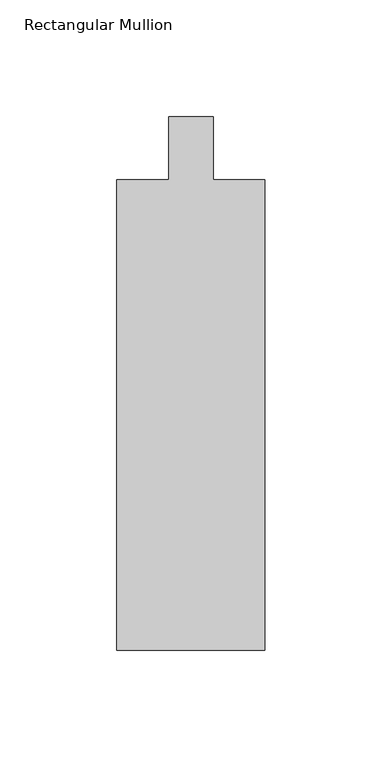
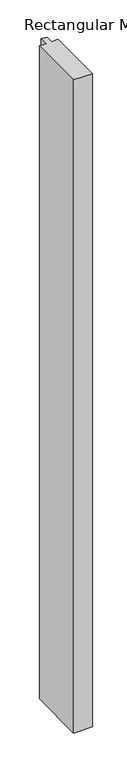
"""IFC4 building model written with IfcOpenShell, lengths in millimetres: member geometry."""

import ifcopenshell
import ifcopenshell.guid

model = None  # the IFC model being written
_history = None  # IfcOwnerHistory: only IFC2X3 demands one
_inside = {}  # id of a spatial element -> (the spatial element, [elements in it])
_under = {}  # id of a project, library or spatial element -> (it, [spatial elements below it])
_declared = {}  # id of a project -> (the project, [libraries it declares])
_typed = {}  # id of a type object -> (the type object, [elements of that type])
_made_of = {}  # id of a material, layer set ... -> (it, [elements and type objects made of it])


def new_model(schema):
    """Start an empty IFC model of exactly this schema.

    Asked for "IFC4X3", IfcOpenShell would pick the latest addendum, in which some entities
    have other attributes; the version numbers below select the first issue.
    IFC2X3 requires an IfcOwnerHistory on every rooted entity: one is made here for all.
    """
    global model, _history
    if schema == "IFC4X3":
        model = ifcopenshell.file(schema_version=(4, 3, 0, 0))
    else:
        model = ifcopenshell.file(schema=schema)
    _inside.clear()
    _under.clear()
    _declared.clear()
    _typed.clear()
    _made_of.clear()
    _history = None
    if model.schema == "IFC2X3":
        org = make("IfcOrganization", Name="unknown")
        user = make(
            "IfcPersonAndOrganization",
            ThePerson=make("IfcPerson", FamilyName="unknown"),
            TheOrganization=org,
        )
        app = make(
            "IfcApplication",
            ApplicationDeveloper=org,
            Version="unknown",
            ApplicationFullName="unknown",
            ApplicationIdentifier="unknown",
        )
        _history = make(
            "IfcOwnerHistory",
            OwningUser=user,
            OwningApplication=app,
            ChangeAction="ADDED",
            CreationDate=0,
        )
    return model


def make(cls, **values):
    """One entity of the class cls with the attributes given. An attribute that is None is left unset."""
    return model.create_entity(
        cls, **{name: value for name, value in values.items() if value is not None}
    )


def rooted(cls, **values):
    """An entity with a GlobalId (a new one), such as an element, a storey or a relation."""
    return make(cls, GlobalId=ifcopenshell.guid.new(), OwnerHistory=_history, **values)


def si_unit(unit_type, name, prefix=None):
    """IfcSIUnit, for example si_unit("LENGTHUNIT", "METRE", prefix="MILLI")."""
    return make("IfcSIUnit", UnitType=unit_type, Prefix=prefix, Name=name)


def assignment(units):
    """IfcUnitAssignment: the units of a project."""
    return None if units is None else make("IfcUnitAssignment", Units=units)


def point(xyz):
    """IfcCartesianPoint."""
    return None if xyz is None else make("IfcCartesianPoint", Coordinates=xyz)


def direction(xyz):
    """IfcDirection."""
    return None if xyz is None else make("IfcDirection", DirectionRatios=xyz)


def frame(location, z_axis=None, x_axis=None):
    """IfcAxis2Placement3D, a coordinate frame: its origin and axes. An axis left out is left unset."""
    return make(
        "IfcAxis2Placement3D",
        Location=point(location),
        Axis=direction(z_axis),
        RefDirection=direction(x_axis),
    )


def origin():
    """The frame at (0, 0, 0) with its axes left unset."""
    return frame((0.0, 0.0, 0.0))


def place(relative_to, where):
    """IfcLocalPlacement: puts the frame where relative to a parent placement (None: the world)."""
    return make(
        "IfcLocalPlacement", PlacementRelTo=relative_to, RelativePlacement=where
    )


def context(
    kind, dimensions, precision=None, world=None, true_north=None, identifier=None
):
    """IfcGeometricRepresentationContext, for example the 3D "Model" context."""
    return make(
        "IfcGeometricRepresentationContext",
        ContextIdentifier=identifier,
        ContextType=kind,
        CoordinateSpaceDimension=dimensions,
        Precision=precision,
        WorldCoordinateSystem=world,
        TrueNorth=true_north,
    )


def project(units=None, contexts=None):
    """IfcProject with its units and contexts."""
    return rooted(
        "IfcProject",
        Name="project",
        RepresentationContexts=contexts,
        UnitsInContext=assignment(units),
    )


def spatial(cls, under=None, at=None, **own):
    """A site, building, storey or space (cls), placed at a placement, below another one or the project."""
    s = rooted(cls, ObjectPlacement=at, **own)
    if under is not None:
        _under.setdefault(under.id(), (under, []))[1].append(s)
    return s


def polyline(points):
    """IfcPolyline through the points."""
    return make("IfcPolyline", Points=[point(p) for p in points])


def outline(outer, holes=None, kind="AREA"):
    """IfcArbitraryClosedProfileDef: a profile drawn as a closed curve; with holes, ...WithVoids."""
    if holes is None:
        return make("IfcArbitraryClosedProfileDef", ProfileType=kind, OuterCurve=outer)
    return make(
        "IfcArbitraryProfileDefWithVoids",
        ProfileType=kind,
        OuterCurve=outer,
        InnerCurves=holes,
    )


def extrude(swept, where, along, depth):
    """IfcExtrudedAreaSolid: the profile swept, set in the frame where, extruded along a direction by depth."""
    return make(
        "IfcExtrudedAreaSolid",
        SweptArea=swept,
        Position=where,
        ExtrudedDirection=direction(along),
        Depth=depth,
    )


def shape(context_of_items, identifier, shape_type, items):
    """IfcShapeRepresentation: the items that make up one representation, for example the "Body"."""
    return make(
        "IfcShapeRepresentation",
        ContextOfItems=context_of_items,
        RepresentationIdentifier=identifier,
        RepresentationType=shape_type,
        Items=items,
    )


def source(mapping_origin, context_of_items, identifier, shape_type, items):
    """IfcRepresentationMap: a shape defined once, which mapped items show again and again."""
    return make(
        "IfcRepresentationMap",
        MappingOrigin=mapping_origin,
        MappedRepresentation=shape(context_of_items, identifier, shape_type, items),
    )


def transform(
    local_origin,
    x_axis=None,
    y_axis=None,
    z_axis=None,
    scale=None,
    scale2=None,
    scale3=None,
    uniform=True,
):
    """IfcCartesianTransformationOperator3D, or its non-uniform kind. x_axis, y_axis, z_axis: its Axis1, 2, 3."""
    if uniform:
        return make(
            "IfcCartesianTransformationOperator3D",
            Axis1=direction(x_axis),
            Axis2=direction(y_axis),
            LocalOrigin=point(local_origin),
            Scale=scale,
            Axis3=direction(z_axis),
        )
    return make(
        "IfcCartesianTransformationOperator3DnonUniform",
        Axis1=direction(x_axis),
        Axis2=direction(y_axis),
        LocalOrigin=point(local_origin),
        Scale=scale,
        Axis3=direction(z_axis),
        Scale2=scale2,
        Scale3=scale3,
    )


def mapped(mapping_source, mapping_target):
    """IfcMappedItem: shows the shape of a source again, moved by a transform."""
    return make(
        "IfcMappedItem", MappingSource=mapping_source, MappingTarget=mapping_target
    )


def made_of(thing, what):
    """Note that an element or type object is made of a material, layer set ...; save() writes the relation."""
    if what is not None:
        _made_of.setdefault(what.id(), (what, []))[1].append(thing)
    return thing


def element(
    cls,
    number,
    at=None,
    inside=None,
    cuts=None,
    type_object=None,
    material=None,
    context=None,
    identifier="Body",
    shape_type=None,
    held_by="IfcProductDefinitionShape",
    body=None,
    shapes=None,
    **own,
):
    """One element of the class cls, such as IfcWall. Its Tag is "e" and its number.

    at: its placement. inside: the storey or other place that contains it. cuts: it is an
    opening in that element (IfcRelVoidsElement). A single representation is given by context,
    identifier, shape_type and body (its items); several are given by shapes. held_by: the class
    of the entity that holds the representations. save() writes the other relations.
    """
    e = rooted(cls, Tag="e%d" % number, ObjectPlacement=at, **own)
    if body is not None:
        shapes = [shape(context, identifier, shape_type, body)]
    if shapes is not None:
        e.Representation = make(held_by, Representations=shapes)
    if inside is not None:
        _inside.setdefault(inside.id(), (inside, []))[1].append(e)
    if cuts is not None:
        rooted(
            "IfcRelVoidsElement", RelatingBuildingElement=cuts, RelatedOpeningElement=e
        )
    if type_object is not None:
        _typed.setdefault(type_object.id(), (type_object, []))[1].append(e)
    return made_of(e, material)


def aggregate(whole, parts):
    """IfcRelAggregates: a whole, such as a stair, and the parts it consists of."""
    return rooted("IfcRelAggregates", RelatingObject=whole, RelatedObjects=parts)


def save(model, path):
    """Write the relations noted so far, then the file.

    IfcRelAggregates (storeys below a building ...), IfcRelContainedInSpatialStructure (elements
    in a storey), IfcRelDefinesByType, IfcRelAssociatesMaterial and IfcRelDeclares: one each for
    every whole, place, type object, material and project.
    """
    for whole, parts in _under.values():
        aggregate(whole, parts)
    for where, things in _inside.values():
        rooted(
            "IfcRelContainedInSpatialStructure",
            RelatedElements=things,
            RelatingStructure=where,
        )
    for kind, things in _typed.values():
        rooted("IfcRelDefinesByType", RelatedObjects=things, RelatingType=kind)
    for what, things in _made_of.values():
        rooted("IfcRelAssociatesMaterial", RelatedObjects=things, RelatingMaterial=what)
    for by, libraries in _declared.values():
        rooted("IfcRelDeclares", RelatingContext=by, RelatedDefinitions=libraries)
    model.write(path)


def rectangular_mullion_58bc6a44(model_context):
    return source(origin(), model_context, "Body", "SweptSolid", [
        extrude(outline(polyline([(0.0, -228.6), (-63.5, -228.6), (-63.5, -26.9875), (-41.275, -26.9875), (-41.275, 0.0), (-22.225, 0.0), (-22.225, -26.9875), (0.0, -26.9875), (0.0, -228.6)])), frame((0.0, 0.0, -2342.5991909), z_axis=(0.0, 0.0, 1.0), x_axis=(1.0, 0.0, 0.0)), (0.0, 0.0, 1.0), 2342.5991909),
    ])


if __name__ == "__main__":
    model = new_model("IFC4")
    model_context = context("Model", 3, world=origin())
    ifc_project = project(units=[si_unit("LENGTHUNIT", "METRE", prefix="MILLI")], contexts=[model_context])
    site = spatial("IfcSite", under=ifc_project)
    building = spatial("IfcBuilding", under=site)
    placement = place(None, origin())
    rectangular_mullion_shape = rectangular_mullion_58bc6a44(model_context)
    element("IfcMember", 1, ObjectType="Rectangular Mullion : 2 1/2\" x 8\" - Capless", at=placement, inside=building, context=model_context, shape_type="MappedRepresentation", body=[
        mapped(rectangular_mullion_shape, transform((0.0, 0.0, 0.0), x_axis=(1.0, 0.0, 0.0), y_axis=(0.0, 1.0, 0.0), z_axis=(0.0, 0.0, 1.0))),
    ])
    save(model, "model.ifc")
